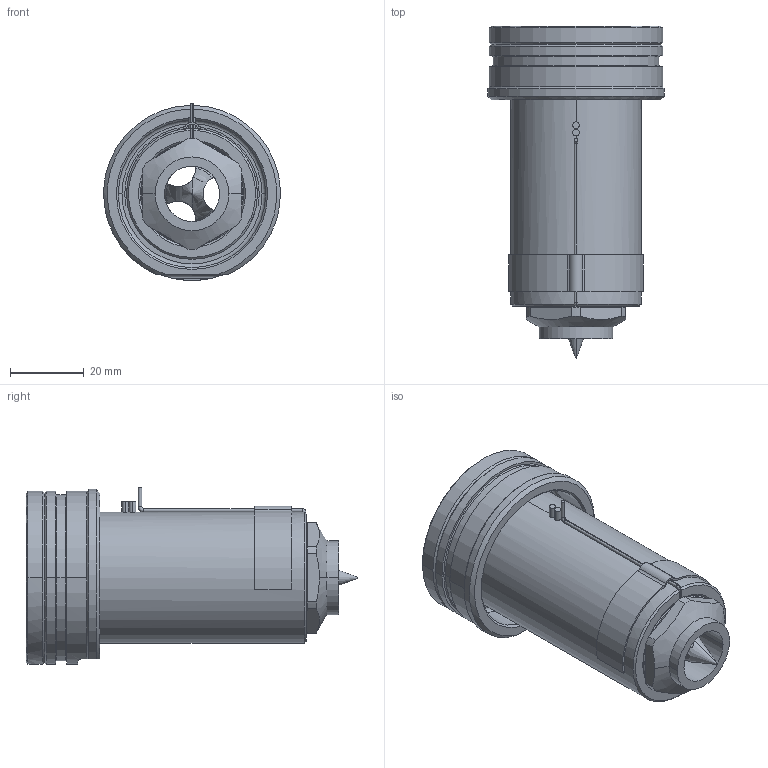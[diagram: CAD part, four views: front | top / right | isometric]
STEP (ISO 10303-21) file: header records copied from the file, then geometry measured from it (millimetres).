
FILE_DESCRIPTION((''),'2;1');
FILE_NAME('EO16_PG-BL_STD_070_SW','2024-02-19T11:16:07',('sundharh'),(''),'CREO PARAMETRIC BY PTC INC, 2023154','CREO PARAMETRIC BY PTC INC, 2023154','');
FILE_SCHEMA(('CONFIG_CONTROL_DESIGN'));
Length unit declared in the file: millimetre
Products named in the file (1): EO16_PG-BL_STD_070_SW
Bounding box: 47.97 x 90 x 48 mm (x, y, z)
Volume: 77174.8 mm3; surface area: 23443.9 mm2
Topology: 1 solids, 1 shells, 200 faces, 526 edges, 325 vertices
Faces by surface type: cylinder 79, plane 59, cone 39, torus 14, bspline 7, sphere 2
Entity records: 7256 total; most frequent: CARTESIAN_POINT 2215, DIRECTION 1113, ORIENTED_EDGE 1040, EDGE_CURVE 520, AXIS2_PLACEMENT_3D 464, VERTEX_POINT 325, CIRCLE 271, EDGE_LOOP 217
